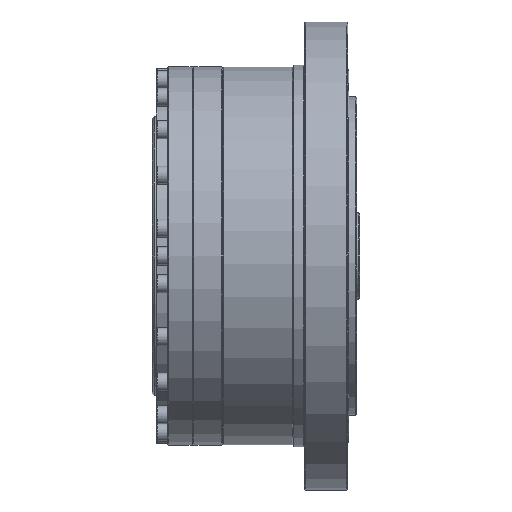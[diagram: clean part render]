
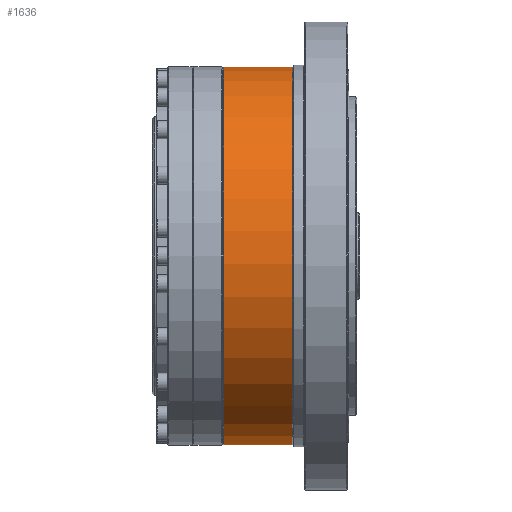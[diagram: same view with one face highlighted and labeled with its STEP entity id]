
A CAD part, front view. The second image highlights one B-rep face of the part: STEP entity #1636.
In plain terms, the highlighted cylindrical face has radius 105 mm (diameter 210 mm), a full revolution.
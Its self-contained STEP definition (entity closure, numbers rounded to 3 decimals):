
#490 = CARTESIAN_POINT ( 'NONE',  ( 55.519, 0., 0. ) ) ;
#1636 = ADVANCED_FACE ( 'NONE', ( #8516, #1928 ), #5753, .T. ) ;
#1928 = FACE_OUTER_BOUND ( 'NONE', #5198, .T. ) ;
#2351 = DIRECTION ( 'NONE',  ( -1., 0., 0. ) ) ;
#3397 = ORIENTED_EDGE ( 'NONE', *, *, #10081, .T. ) ;
#4312 = AXIS2_PLACEMENT_3D ( 'NONE', #17117, #2351, #19595 ) ;
#5198 = EDGE_LOOP ( 'NONE', ( #14810 ) ) ;
#5427 = DIRECTION ( 'NONE',  ( -1., 0., 0. ) ) ;
#5753 = CYLINDRICAL_SURFACE ( 'NONE', #25399, 105. ) ;
#7803 = DIRECTION ( 'NONE',  ( 1., 0., 0. ) ) ;
#8516 = FACE_OUTER_BOUND ( 'NONE', #28145, .T. ) ;
#10081 = EDGE_CURVE ( 'NONE', #30939, #30939, #30747, .T. ) ;
#11708 = CARTESIAN_POINT ( 'NONE',  ( 7.5, -97.007, -40.182 ) ) ;
#13402 = CARTESIAN_POINT ( 'NONE',  ( 45.5, 97.007, 40.182 ) ) ;
#14810 = ORIENTED_EDGE ( 'NONE', *, *, #25225, .T. ) ;
#16639 = AXIS2_PLACEMENT_3D ( 'NONE', #22597, #7803, #25096 ) ;
#17117 = CARTESIAN_POINT ( 'NONE',  ( 45.5, 0., 0. ) ) ;
#17943 = VERTEX_POINT ( 'NONE', #13402 ) ;
#19595 = DIRECTION ( 'NONE',  ( 0., 0.924, 0.383 ) ) ;
#20206 = DIRECTION ( 'NONE',  ( 0., 0.924, 0.383 ) ) ;
#22597 = CARTESIAN_POINT ( 'NONE',  ( 7.5, 0., 0. ) ) ;
#25096 = DIRECTION ( 'NONE',  ( 0., -0.924, -0.383 ) ) ;
#25225 = EDGE_CURVE ( 'NONE', #17943, #17943, #25290, .T. ) ;
#25290 = CIRCLE ( 'NONE', #4312, 105. ) ;
#25399 = AXIS2_PLACEMENT_3D ( 'NONE', #490, #5427, #20206 ) ;
#28145 = EDGE_LOOP ( 'NONE', ( #3397 ) ) ;
#30747 = CIRCLE ( 'NONE', #16639, 105. ) ;
#30939 = VERTEX_POINT ( 'NONE', #11708 ) ;
